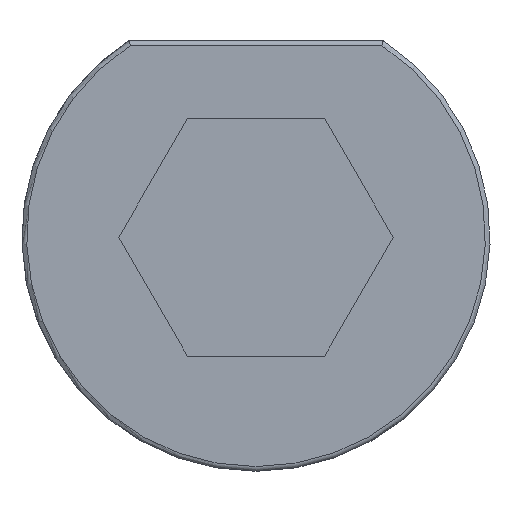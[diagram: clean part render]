
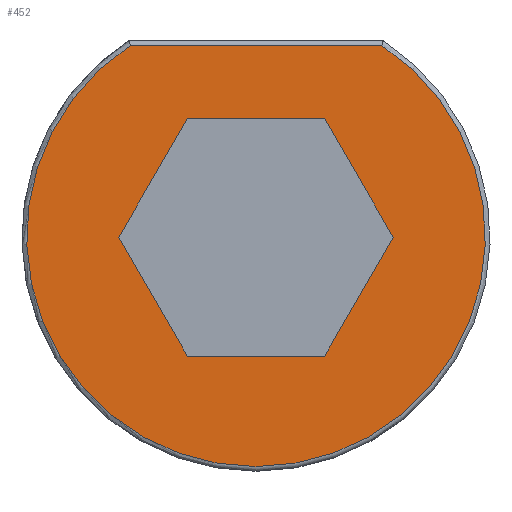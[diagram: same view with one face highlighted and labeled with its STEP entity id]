
A CAD part, front view. The second image highlights one B-rep face of the part: STEP entity #452.
In plain terms, the highlighted planar face has unit normal (0, -1, 0).
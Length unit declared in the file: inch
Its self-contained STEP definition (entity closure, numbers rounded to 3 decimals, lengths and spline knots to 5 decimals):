
#21=FACE_BOUND('',#91,.T.);
#25=PLANE('',#496);
#37=CIRCLE('',#492,0.4825);
#63=FACE_OUTER_BOUND('',#90,.T.);
#90=EDGE_LOOP('',(#331,#332));
#91=EDGE_LOOP('',(#333,#334,#335,#336,#337,#338));
#127=LINE('',#671,#162);
#136=LINE('',#779,#171);
#137=LINE('',#781,#172);
#138=LINE('',#783,#173);
#139=LINE('',#785,#174);
#140=LINE('',#787,#175);
#141=LINE('',#788,#176);
#162=VECTOR('',#540,0.3937);
#171=VECTOR('',#563,0.3937);
#172=VECTOR('',#564,0.3937);
#173=VECTOR('',#565,0.3937);
#174=VECTOR('',#566,0.3937);
#175=VECTOR('',#567,0.3937);
#176=VECTOR('',#568,0.3937);
#197=VERTEX_POINT('',#669);
#198=VERTEX_POINT('',#670);
#213=VERTEX_POINT('',#777);
#214=VERTEX_POINT('',#778);
#215=VERTEX_POINT('',#780);
#216=VERTEX_POINT('',#782);
#217=VERTEX_POINT('',#784);
#218=VERTEX_POINT('',#786);
#242=EDGE_CURVE('',#197,#198,#127,.T.);
#247=EDGE_CURVE('',#198,#197,#37,.T.);
#261=EDGE_CURVE('',#213,#214,#136,.T.);
#262=EDGE_CURVE('',#214,#215,#137,.T.);
#263=EDGE_CURVE('',#215,#216,#138,.T.);
#264=EDGE_CURVE('',#216,#217,#139,.T.);
#265=EDGE_CURVE('',#217,#218,#140,.T.);
#266=EDGE_CURVE('',#218,#213,#141,.T.);
#331=ORIENTED_EDGE('',*,*,#242,.F.);
#332=ORIENTED_EDGE('',*,*,#247,.F.);
#333=ORIENTED_EDGE('',*,*,#261,.T.);
#334=ORIENTED_EDGE('',*,*,#262,.T.);
#335=ORIENTED_EDGE('',*,*,#263,.T.);
#336=ORIENTED_EDGE('',*,*,#264,.T.);
#337=ORIENTED_EDGE('',*,*,#265,.T.);
#338=ORIENTED_EDGE('',*,*,#266,.T.);
#452=ADVANCED_FACE('',(#63,#21),#25,.T.);
#492=AXIS2_PLACEMENT_3D('',#705,#546,#547);
#496=AXIS2_PLACEMENT_3D('',#776,#561,#562);
#540=DIRECTION('',(1.,0.,0.));
#546=DIRECTION('center_axis',(0.,1.,0.));
#547=DIRECTION('ref_axis',(0.,0.,-1.));
#561=DIRECTION('center_axis',(0.,-1.,0.));
#562=DIRECTION('ref_axis',(0.,0.,-1.));
#563=DIRECTION('',(1.,0.,0.));
#564=DIRECTION('',(0.5,0.,-0.866));
#565=DIRECTION('',(-0.5,0.,-0.866));
#566=DIRECTION('',(-1.,0.,0.));
#567=DIRECTION('',(-0.5,0.,0.866));
#568=DIRECTION('',(0.5,0.,0.866));
#669=CARTESIAN_POINT('',(-0.26456,0.,0.4035));
#670=CARTESIAN_POINT('',(0.26456,0.,0.4035));
#671=CARTESIAN_POINT('',(0.20887,0.,0.4035));
#705=CARTESIAN_POINT('Origin',(0.,0.,0.));
#776=CARTESIAN_POINT('Origin',(0.,0.,0.));
#777=CARTESIAN_POINT('',(-0.14434,0.,0.25));
#778=CARTESIAN_POINT('',(0.14434,0.,0.25));
#779=CARTESIAN_POINT('',(-0.07217,0.,0.25));
#780=CARTESIAN_POINT('',(0.28868,0.,0.));
#781=CARTESIAN_POINT('',(0.18042,0.,0.1875));
#782=CARTESIAN_POINT('',(0.14434,0.,-0.25));
#783=CARTESIAN_POINT('',(0.25259,0.,-0.0625));
#784=CARTESIAN_POINT('',(-0.14434,0.,-0.25));
#785=CARTESIAN_POINT('',(0.07217,0.,-0.25));
#786=CARTESIAN_POINT('',(-0.28868,0.,0.));
#787=CARTESIAN_POINT('',(-0.18042,0.,-0.1875));
#788=CARTESIAN_POINT('',(-0.25259,0.,0.0625));
